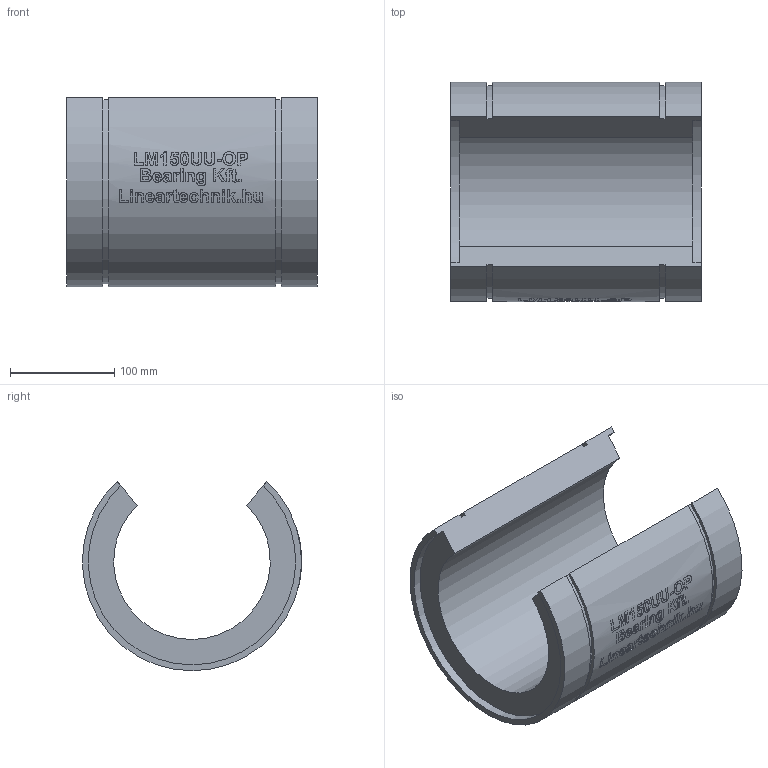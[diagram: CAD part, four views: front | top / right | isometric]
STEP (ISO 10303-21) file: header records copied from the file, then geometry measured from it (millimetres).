
FILE_DESCRIPTION(/* description */ (''),/* implementation_level */ '2;1');
FILE_NAME(/* name */ 'LM150UU-OP',/* time_stamp */ '2019-07-10T16:11:11+02:00',/* author */ ('VĂ©gh MĂˇtĂ©'),/* organization */ ('Bearing Kft'),/* preprocessor_version */ 'ST-DEVELOPER v16.7',/* originating_system */ 'DEX',/* authorisation */ $);
FILE_SCHEMA (('AUTOMOTIVE_DESIGN {1 0 10303 214 3 1 1}'));
Length unit declared in the file: millimetre
Products named in the file (1): LM150UU-OP
Bounding box: 240 x 209.93 x 181.59 mm (x, y, z)
Volume: 2906426.6 mm3; surface area: 252693.6 mm2
Topology: 1 solids, 1 shells, 332 faces, 837 edges, 558 vertices
Faces by surface type: plane 171, bspline 102, cylinder 59
Entity records: 24937 total; most frequent: CARTESIAN_POINT 17478, ORIENTED_EDGE 1664, DIRECTION 1244, EDGE_CURVE 832, VERTEX_POINT 558, LINE 466, VECTOR 466, AXIS2_PLACEMENT_3D 389
